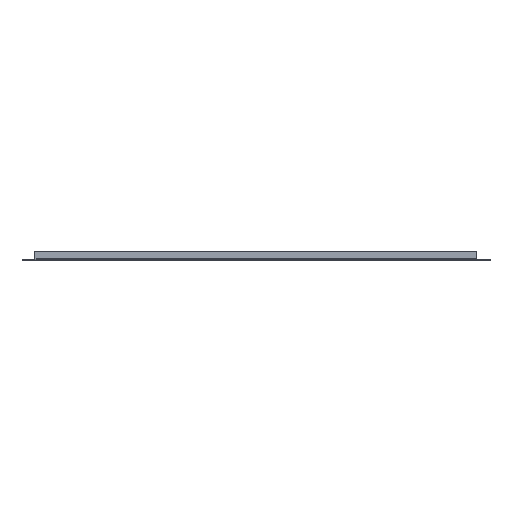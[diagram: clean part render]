
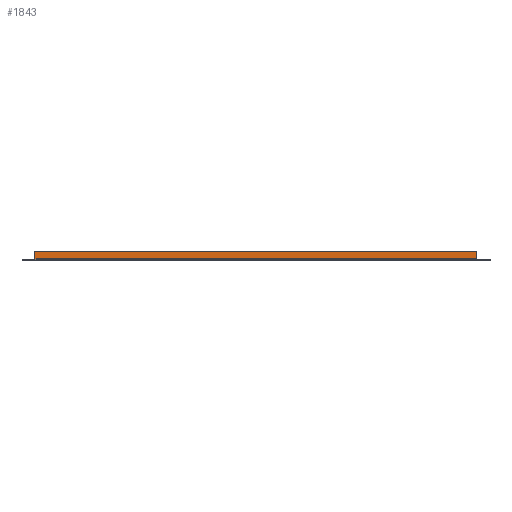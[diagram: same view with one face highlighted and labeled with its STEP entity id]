
A CAD part, left-side view. The second image highlights one B-rep face of the part: STEP entity #1843.
In plain terms, the highlighted planar face has unit normal (-1, 0, 0).
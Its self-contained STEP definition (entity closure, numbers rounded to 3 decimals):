
#1688 = VERTEX_POINT('',#1689);
#1689 = CARTESIAN_POINT('',(-925.,510.,3.1));
#1728 = VERTEX_POINT('',#1729);
#1729 = CARTESIAN_POINT('',(-925.,-510.,3.1));
#1753 = EDGE_CURVE('',#1728,#1688,#1754,.T.);
#1754 = LINE('',#1755,#1756);
#1755 = CARTESIAN_POINT('',(-925.,-510.,3.1));
#1756 = VECTOR('',#1757,1.);
#1757 = DIRECTION('',(0.,1.,0.));
#1795 = VERTEX_POINT('',#1796);
#1796 = CARTESIAN_POINT('',(-925.,-510.,20.));
#1802 = EDGE_CURVE('',#1728,#1795,#1803,.T.);
#1803 = LINE('',#1804,#1805);
#1804 = CARTESIAN_POINT('',(-925.,-510.,20.));
#1805 = VECTOR('',#1806,1.);
#1806 = DIRECTION('',(0.,-0.,1.));
#1817 = EDGE_CURVE('',#1818,#1688,#1820,.T.);
#1818 = VERTEX_POINT('',#1819);
#1819 = CARTESIAN_POINT('',(-925.,510.,20.));
#1820 = LINE('',#1821,#1822);
#1821 = CARTESIAN_POINT('',(-925.,510.,2.5));
#1822 = VECTOR('',#1823,1.);
#1823 = DIRECTION('',(0.,-0.,-1.));
#1843 = ADVANCED_FACE('',(#1844),#1855,.F.);
#1844 = FACE_BOUND('',#1845,.T.);
#1845 = EDGE_LOOP('',(#1846,#1847,#1848,#1854));
#1846 = ORIENTED_EDGE('',*,*,#1753,.F.);
#1847 = ORIENTED_EDGE('',*,*,#1802,.T.);
#1848 = ORIENTED_EDGE('',*,*,#1849,.T.);
#1849 = EDGE_CURVE('',#1795,#1818,#1850,.T.);
#1850 = LINE('',#1851,#1852);
#1851 = CARTESIAN_POINT('',(-925.,510.,20.));
#1852 = VECTOR('',#1853,1.);
#1853 = DIRECTION('',(0.,1.,-0.));
#1854 = ORIENTED_EDGE('',*,*,#1817,.T.);
#1855 = PLANE('',#1856);
#1856 = AXIS2_PLACEMENT_3D('',#1857,#1858,#1859);
#1857 = CARTESIAN_POINT('',(-925.,-510.,2.5));
#1858 = DIRECTION('',(1.,0.,0.));
#1859 = DIRECTION('',(0.,0.,-1.));
